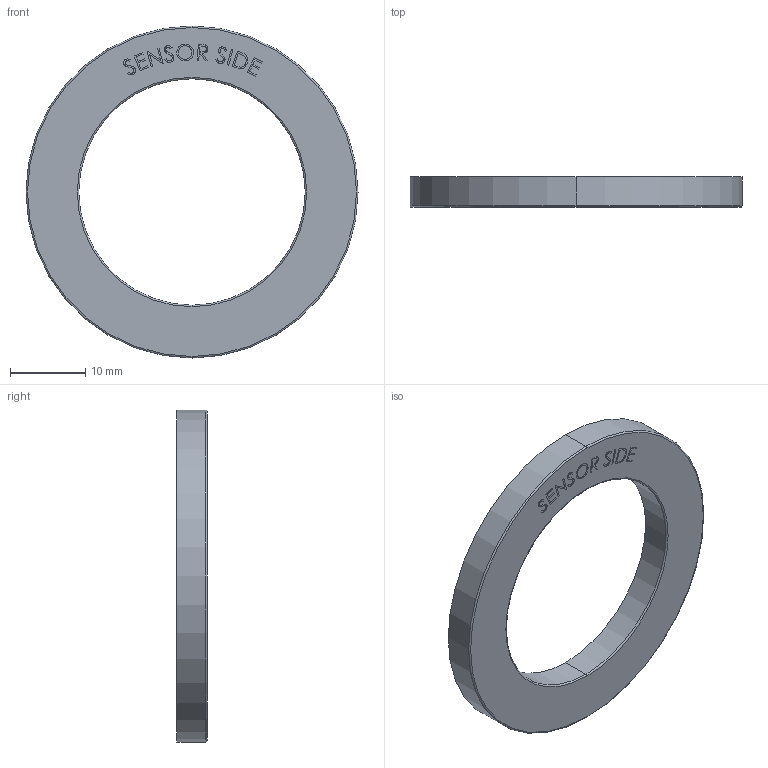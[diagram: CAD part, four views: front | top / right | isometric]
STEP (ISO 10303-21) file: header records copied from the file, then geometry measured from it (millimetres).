
FILE_DESCRIPTION (( 'STEP AP214' ), '1' );
FILE_NAME ('MAG025D02_01.STEP', '2022-12-14T11:36:32', ( '' ), ( '' ), 'SwSTEP 2.0', 'SolidWorks 2020', '' );
FILE_SCHEMA (( 'AUTOMOTIVE_DESIGN' ));
Length unit declared in the file: millimetre
Products named in the file (1): MAG025D02_01
Bounding box: 44 x 4 x 44 mm (x, y, z)
Volume: 3250.2 mm3; surface area: 2541.8 mm2
Topology: 1 solids, 1 shells, 161 faces, 422 edges, 280 vertices
Faces by surface type: plane 80, bspline 65, cylinder 12, torus 4
Entity records: 8228 total; most frequent: CARTESIAN_POINT 4633, ORIENTED_EDGE 844, DIRECTION 518, EDGE_CURVE 422, VERTEX_POINT 280, VECTOR 260, LINE 260, EDGE_LOOP 180
